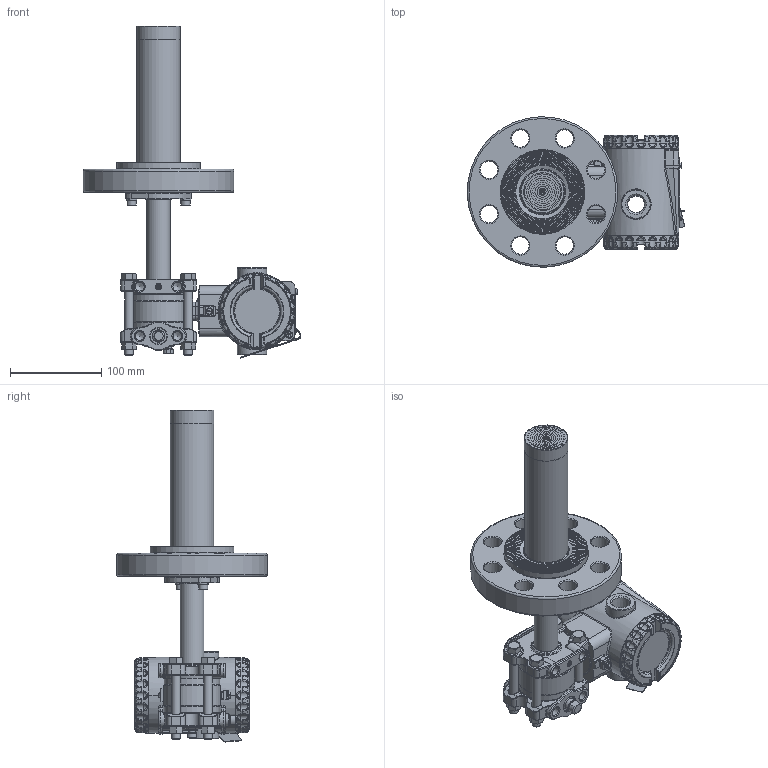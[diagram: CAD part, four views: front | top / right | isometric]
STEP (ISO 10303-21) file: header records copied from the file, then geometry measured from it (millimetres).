
FILE_DESCRIPTION(/* description */ (''),/* implementation_level */ '2;1');
FILE_NAME(/* name */ 'F:\Area\Desenvolvimento_2\Projects\Sensor\projetos\LD400-3d\dimensionais 3D clientes\LD400L\LD400L 2-600 RF ext 150 ref 1-4NPT purga acima.stp',/* time_stamp */ '2023-02-23T15:54:23-03:00',/* author */ ('inventor02'),/* organization */ (''),/* preprocessor_version */ 'ST-DEVELOPER v17',/* originating_system */ 'Autodesk Inventor 2019',/* authorisation */ '');
FILE_SCHEMA (('CONFIG_CONTROL_DESIGN'));
Products named in the file (41): LD30XL 2-600 RF ext 150 ref 1-4NPT purga acima; 204-0301-L-2 600 RF ext 150 purga acima; nivel fx3 com baixa diferencial 1-4NPT purga acima; involucro fx0-3 apos a usinagem final; flange diferencial std purga; 101-C-7484-01 flange selo nivel VR; 201-A-0504-tubo união teste 1; bujao 1-4NPT; Sangria; Porca 3-8 x 16 UNC; Paraf. 3-8 x 16 UNC; adaptação tubo x flanges 1-1-2 a 4pol; 101-B-0161-anel cortado do tubo - teste1; 101-B-0162-flange fixação tubo; ANSI B18.3.1M - M6x1 x 16; DIN 127 - A 6; flange 2 600 ext 150; 101-C-0126-10; 101-B-7700-01-150; 101-B-0168-11; Carcaça 400 com tampas e plaqueta sem letras; 101-D-0845-05 carcaça LD400 sem letras; 101-B-3614-03-tampa 400 sem letras; Tampa visor 400 montada sem letras; 101-B-3612-05 tampa visor 400 sem letras; 101-A-6107; oring 2034; 00034775-0; WHW_250; DIN 915 - M6 x 10; Chapa aterramento externo; 201-A-1771-02 inserto terra recartilhado; AS 1969 - ST4,2; ISO 1207 - M4 x 8; ANSI B18.3.1M - M4x0,7 x 8; Subconjunto plaqueta 400; plaqueta 400 em branco; Parafuso da Plaqueta; Rebite da Plaqueta; 096-A-0169-03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
Assembly tree (50 placements, depth 4):
  LD30XL 2-600 RF ext 150 ref 1-4NPT purga acima
    204-0301-L-2 600 RF ext 150 purga acima
      nivel fx3 com baixa diferencial 1-4NPT purga acima
        involucro fx0-3 apos a usinagem final
        flange diferencial std purga
        101-C-7484-01 flange selo nivel VR
        201-A-0504-tubo união teste 1
        DIN 915 - M6 x 10
        bujao 1-4NPT
        Sangria
        Porca 3-8 x 16 UNC  x4
        Paraf. 3-8 x 16 UNC  x4
      adaptação tubo x flanges 1-1-2 a 4pol
        101-B-0161-anel cortado do tubo - teste1
        101-B-0162-flange fixação tubo
        ANSI B18.3.1M - M6x1 x 16  x2
        DIN 127 - A 6  x2
      flange 2 600 ext 150
        101-C-0126-10
        101-B-7700-01-150
        101-B-0168-11
    Carcaça 400 com tampas e plaqueta sem letras
      101-D-0845-05 carcaça LD400 sem letras
      101-B-3614-03-tampa 400 sem letras
      Tampa visor 400 montada sem letras
        101-B-3612-05 tampa visor 400 sem letras
        101-A-6107
        oring 2034
        00034775-0
        WHW_250
      DIN 915 - M6 x 10
      Chapa aterramento externo
      201-A-1771-02 inserto terra recartilhado
      AS 1969 - ST4,2
      ISO 1207 - M4 x 8
      ANSI B18.3.1M - M4x0,7 x 8  x2
      Subconjunto plaqueta 400
        plaqueta 400 em branco
        Parafuso da Plaqueta
        Rebite da Plaqueta
        096-A-0169-03
        101-A-0502-01
Bounding box: 238.17 x 164.84 x 363.82 mm (x, y, z)
Volume: 1237455.2 mm3; surface area: 371157.1 mm2
Topology: 43 solids, 43 shells, 2791 faces, 6761 edges, 4060 vertices
Faces by surface type: plane 730, cylinder 668, bspline 604, torus 483, cone 230, sphere 76
Full cylindrical faces by diameter (mm): 2 x4, 2.1 x1, 2.2 x1, 2.459 x3, 2.5 x1, 2.7 x1, 2.8 x1, 3 x4, 3.242 x3, 3.5 x1, 3.571 x1, 4 x5, 4.3 x2, 4.4 x1, 4.917 x4, 5 x1, 5.5 x3, 6 x6, 6.1 x2, 6.2 x1, 6.647 x1, 7 x5, 7.6 x2, 7.798 x4, 8 x1, 9.525 x4, 9.728 x6, 10 x2, 10.5 x8, 10.719 x2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
Entity records: 99334 total; most frequent: CARTESIAN_POINT 37174, DIRECTION 12836, ORIENTED_EDGE 12762, EDGE_CURVE 6381, AXIS2_PLACEMENT_3D 5501, VERTEX_POINT 3866, CIRCLE 3197, EDGE_LOOP 2843
